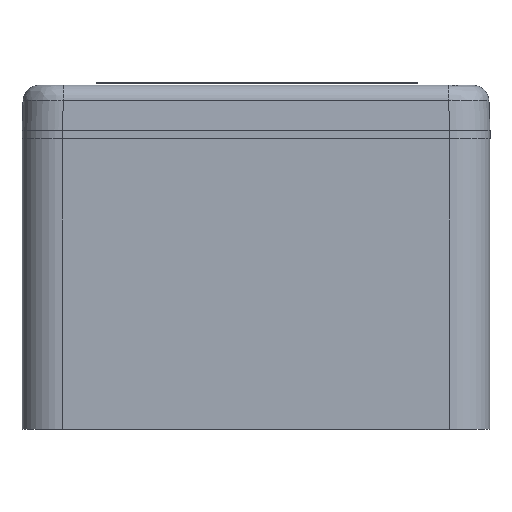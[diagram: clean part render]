
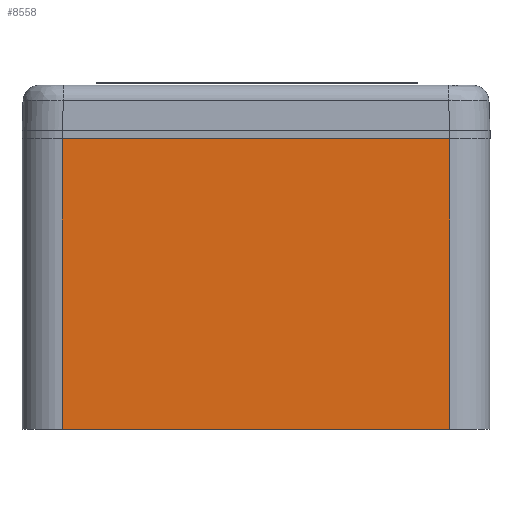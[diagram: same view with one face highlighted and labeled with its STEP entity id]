
A CAD part, left-side view. The second image highlights one B-rep face of the part: STEP entity #8558.
In plain terms, the highlighted planar face has unit normal (-1, 0, 0).
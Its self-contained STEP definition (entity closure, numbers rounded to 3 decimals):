
#421=PLANE('',#9143);
#666=FACE_OUTER_BOUND('',#1169,.T.);
#1169=EDGE_LOOP('',(#5665,#5666,#5667,#5668));
#1700=LINE('',#12734,#2366);
#1705=LINE('',#12749,#2371);
#1706=LINE('',#12753,#2372);
#1711=LINE('',#12764,#2377);
#2366=VECTOR('',#10237,10.);
#2371=VECTOR('',#10254,10.);
#2372=VECTOR('',#10259,10.);
#2377=VECTOR('',#10276,10.);
#3449=VERTEX_POINT('',#12731);
#3450=VERTEX_POINT('',#12733);
#3454=VERTEX_POINT('',#12747);
#3455=VERTEX_POINT('',#12751);
#4283=EDGE_CURVE('',#3450,#3449,#1700,.T.);
#4291=EDGE_CURVE('',#3454,#3449,#1705,.T.);
#4293=EDGE_CURVE('',#3450,#3455,#1706,.T.);
#4298=EDGE_CURVE('',#3454,#3455,#1711,.T.);
#5665=ORIENTED_EDGE('',*,*,#4291,.F.);
#5666=ORIENTED_EDGE('',*,*,#4298,.T.);
#5667=ORIENTED_EDGE('',*,*,#4293,.F.);
#5668=ORIENTED_EDGE('',*,*,#4283,.T.);
#8558=ADVANCED_FACE('',(#666),#421,.T.);
#9143=AXIS2_PLACEMENT_3D('',#12763,#10274,#10275);
#10237=DIRECTION('',(0.,-1.,0.));
#10254=DIRECTION('',(0.,0.,-1.));
#10259=DIRECTION('',(0.,0.,1.));
#10274=DIRECTION('center_axis',(-1.,0.,0.));
#10275=DIRECTION('ref_axis',(0.,0.,1.));
#10276=DIRECTION('',(0.,1.,0.));
#12731=CARTESIAN_POINT('',(0.,7.5,0.));
#12733=CARTESIAN_POINT('',(0.,79.5,0.));
#12734=CARTESIAN_POINT('',(0.,87.,0.));
#12747=CARTESIAN_POINT('',(0.,7.5,54.));
#12749=CARTESIAN_POINT('',(0.,7.5,0.));
#12751=CARTESIAN_POINT('',(0.,79.5,54.));
#12753=CARTESIAN_POINT('',(0.,79.5,0.));
#12763=CARTESIAN_POINT('Origin',(0.,0.,0.));
#12764=CARTESIAN_POINT('',(0.,87.,54.));
